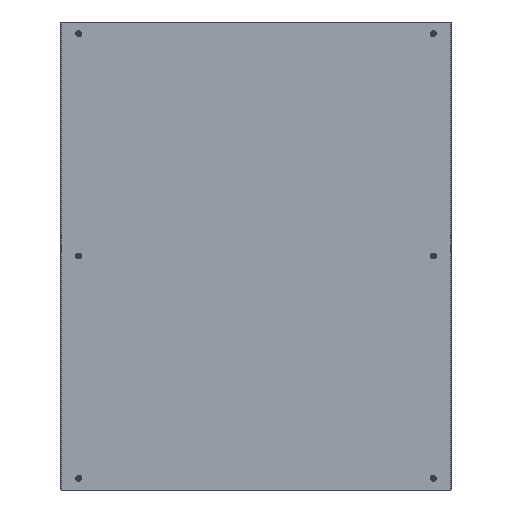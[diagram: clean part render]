
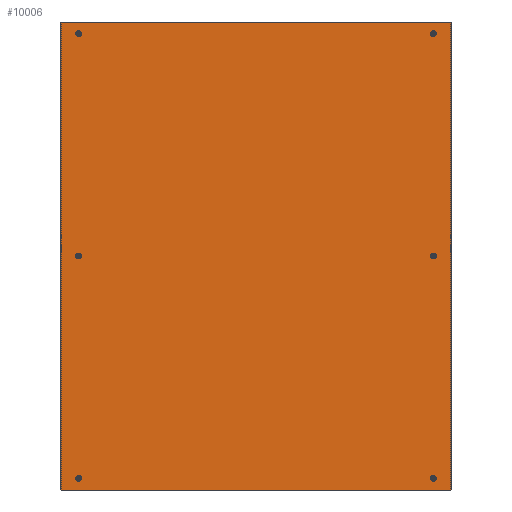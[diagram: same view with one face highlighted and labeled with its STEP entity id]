
A CAD part, left-side view. The second image highlights one B-rep face of the part: STEP entity #10006.
In plain terms, the highlighted planar face has unit normal (-1, 0, 0).
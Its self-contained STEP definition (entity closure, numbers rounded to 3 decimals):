
#523=CIRCLE('',#12410,5.125);
#525=CIRCLE('',#12413,5.125);
#527=CIRCLE('',#12416,5.125);
#529=CIRCLE('',#12419,5.125);
#531=CIRCLE('',#12422,5.125);
#532=CIRCLE('',#12455,5.125);
#2472=ORIENTED_EDGE('',*,*,#4474,.T.);
#2473=ORIENTED_EDGE('',*,*,#4475,.T.);
#2474=ORIENTED_EDGE('',*,*,#4476,.T.);
#2475=ORIENTED_EDGE('',*,*,#4477,.T.);
#2476=ORIENTED_EDGE('',*,*,#4478,.F.);
#2477=ORIENTED_EDGE('',*,*,#4367,.F.);
#2478=ORIENTED_EDGE('',*,*,#4365,.F.);
#2479=ORIENTED_EDGE('',*,*,#4363,.F.);
#2480=ORIENTED_EDGE('',*,*,#4361,.F.);
#2481=ORIENTED_EDGE('',*,*,#4359,.F.);
#4359=EDGE_CURVE('',#5495,#5495,#523,.T.);
#4361=EDGE_CURVE('',#5497,#5497,#525,.T.);
#4363=EDGE_CURVE('',#5499,#5499,#527,.T.);
#4365=EDGE_CURVE('',#5501,#5501,#529,.T.);
#4367=EDGE_CURVE('',#5503,#5503,#531,.T.);
#4474=EDGE_CURVE('',#5582,#5583,#6445,.T.);
#4475=EDGE_CURVE('',#5583,#5584,#6446,.T.);
#4476=EDGE_CURVE('',#5584,#5585,#6447,.T.);
#4477=EDGE_CURVE('',#5585,#5582,#6448,.T.);
#4478=EDGE_CURVE('',#5586,#5586,#532,.T.);
#5495=VERTEX_POINT('',#17573);
#5497=VERTEX_POINT('',#17578);
#5499=VERTEX_POINT('',#17583);
#5501=VERTEX_POINT('',#17588);
#5503=VERTEX_POINT('',#17593);
#5582=VERTEX_POINT('',#17811);
#5583=VERTEX_POINT('',#17812);
#5584=VERTEX_POINT('',#17814);
#5585=VERTEX_POINT('',#17816);
#5586=VERTEX_POINT('',#17819);
#6445=LINE('',#17810,#7311);
#6446=LINE('',#17813,#7312);
#6447=LINE('',#17815,#7313);
#6448=LINE('',#17817,#7314);
#7311=VECTOR('',#14446,1000.);
#7312=VECTOR('',#14447,1000.);
#7313=VECTOR('',#14448,1000.);
#7314=VECTOR('',#14449,1000.);
#8136=EDGE_LOOP('',(#2472,#2473,#2474,#2475));
#8137=EDGE_LOOP('',(#2476));
#8138=EDGE_LOOP('',(#2477));
#8139=EDGE_LOOP('',(#2478));
#8140=EDGE_LOOP('',(#2479));
#8141=EDGE_LOOP('',(#2480));
#8142=EDGE_LOOP('',(#2481));
#8928=FACE_BOUND('',#8136,.T.);
#8929=FACE_BOUND('',#8137,.T.);
#8930=FACE_BOUND('',#8138,.T.);
#8931=FACE_BOUND('',#8139,.T.);
#8932=FACE_BOUND('',#8140,.T.);
#8933=FACE_BOUND('',#8141,.T.);
#8934=FACE_BOUND('',#8142,.T.);
#9524=PLANE('',#12454);
#10006=ADVANCED_FACE('',(#8928,#8929,#8930,#8931,#8932,#8933,#8934),#9524,
 .T.);
#12410=AXIS2_PLACEMENT_3D('',#17572,#14250,#14251);
#12413=AXIS2_PLACEMENT_3D('',#17577,#14256,#14257);
#12416=AXIS2_PLACEMENT_3D('',#17582,#14262,#14263);
#12419=AXIS2_PLACEMENT_3D('',#17587,#14268,#14269);
#12422=AXIS2_PLACEMENT_3D('',#17592,#14274,#14275);
#12454=AXIS2_PLACEMENT_3D('',#17809,#14444,#14445);
#12455=AXIS2_PLACEMENT_3D('',#17818,#14450,#14451);
#14250=DIRECTION('',(-1.,0.,0.));
#14251=DIRECTION('',(0.,-1.,0.));
#14256=DIRECTION('',(-1.,0.,0.));
#14257=DIRECTION('',(0.,-1.,0.));
#14262=DIRECTION('',(-1.,0.,0.));
#14263=DIRECTION('',(0.,-1.,0.));
#14268=DIRECTION('',(-1.,0.,0.));
#14269=DIRECTION('',(0.,-1.,0.));
#14274=DIRECTION('',(-1.,0.,0.));
#14275=DIRECTION('',(0.,-1.,0.));
#14444=DIRECTION('',(-1.,0.,0.));
#14445=DIRECTION('',(0.,-1.,0.));
#14446=DIRECTION('',(0.,1.,0.));
#14447=DIRECTION('',(0.,0.,-1.));
#14448=DIRECTION('',(0.,-1.,0.));
#14449=DIRECTION('',(0.,0.,1.));
#14450=DIRECTION('',(-1.,0.,0.));
#14451=DIRECTION('',(0.,-1.,0.));
#17572=CARTESIAN_POINT('',(-1.5,455.,-570.));
#17573=CARTESIAN_POINT('',(-1.5,449.875,-570.));
#17577=CARTESIAN_POINT('',(-1.5,455.,0.));
#17578=CARTESIAN_POINT('',(-1.5,449.875,0.));
#17582=CARTESIAN_POINT('',(-1.5,455.,570.));
#17583=CARTESIAN_POINT('',(-1.5,449.875,570.));
#17587=CARTESIAN_POINT('',(-1.5,-455.,-570.));
#17588=CARTESIAN_POINT('',(-1.5,-460.125,-570.));
#17592=CARTESIAN_POINT('',(-1.5,-455.,0.));
#17593=CARTESIAN_POINT('',(-1.5,-460.125,0.));
#17809=CARTESIAN_POINT('',(-1.5,0.,0.));
#17810=CARTESIAN_POINT('',(-1.5,0.,600.));
#17811=CARTESIAN_POINT('',(-1.5,-500.,600.));
#17812=CARTESIAN_POINT('',(-1.5,500.,600.));
#17813=CARTESIAN_POINT('',(-1.5,500.,0.));
#17814=CARTESIAN_POINT('',(-1.5,500.,-600.));
#17815=CARTESIAN_POINT('',(-1.5,0.,-600.));
#17816=CARTESIAN_POINT('',(-1.5,-500.,-600.));
#17817=CARTESIAN_POINT('',(-1.5,-500.,0.));
#17818=CARTESIAN_POINT('',(-1.5,-455.,570.));
#17819=CARTESIAN_POINT('',(-1.5,-460.125,570.));
